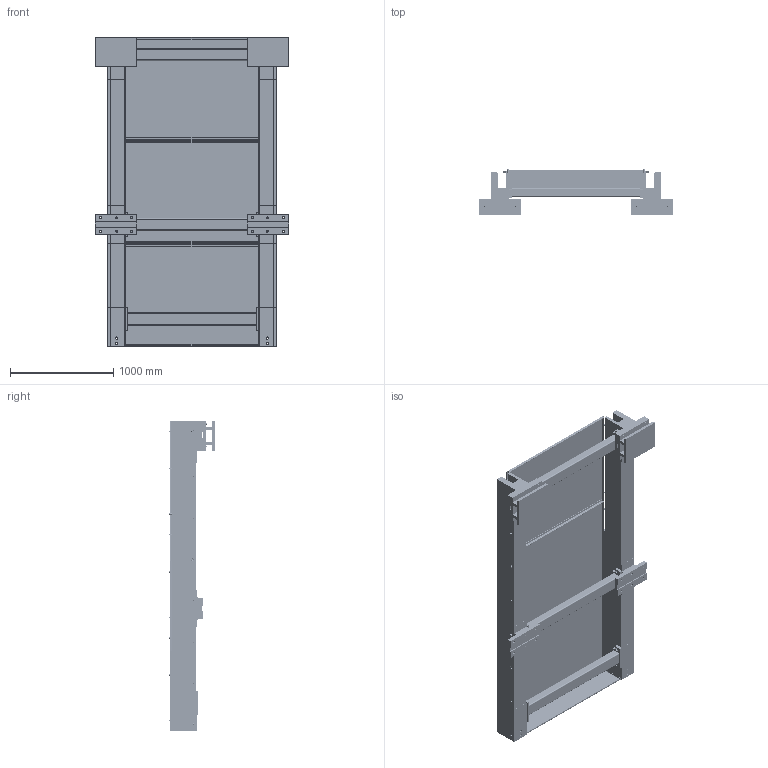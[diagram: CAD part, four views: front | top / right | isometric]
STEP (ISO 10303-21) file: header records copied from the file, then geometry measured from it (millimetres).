
FILE_DESCRIPTION (( 'STEP AP203' ), '1' );
FILE_NAME ('ÒÊ950Ô3Ò 090.000 Ðåëüñîâûé áëîê.STEP', '2017-02-01T04:53:06', ( '' ), ( '' ), 'SwSTEP 2.0', 'SolidWorks 2009', '' );
FILE_SCHEMA (( 'CONFIG_CONTROL_DESIGN' ));
Length unit declared in the file: millimetre
Products named in the file (44): ÒÊ950Ô3Ò 092.006 Îïîðà_ëåâûé; ÒÊ950Ô3Ì 081.008 Îïîðà_ëåâàÿ; ÒÊ950Ô3Ì 081.009 Ïëàíêà; ÒÊ950Ô3Ì 081.010 Ïëàíêà; ÒÊ950Ô3Ì 081.011 Êîìïåíñàòîð; 鎔艜 襞旂 11738-84_M10x30 DIN912; 鎔艜 襞旂 11738-84_M16x40 DIN912; 鎔艜 襞旂 11738-84_M20x80 DIN912; 鎔艜 襞旂 11738-84_M20x100 DIN912; ﾒﾊ950ﾔ3ﾌ 083.000 ﾘ淏濱1520; ÒÊ950Ô3Ì 083.001 Ôëàíåö; ÒÊ950Ô3Ì 083.002 Ïðîôèëü_1520; ÒÊ950Ô3Ì 084.000 Îïîðà; ÒÊ950Ô3Ì 084.001 Ïëàñòèíà; ÒÊ950Ô3Ì 084.002 Ñòîéêà; ÒÊ950Ô3Ì 085.000 Êðûøêà; ÒÊ950Ô3Ì 085.100 Ðàìêà; ÒÊ950Ô3Ì 085.101 Óãîëîê_Äëèííûé 8; ÒÊ950Ô3Ì 085.102 Óãîëîê_Äëèííûé 8; ﾒﾊ950ﾔ3ﾌ 085.001 ﾋ頌6; ÒÊ950Ô3Ì 080.001 Çàùèòà; ÒÊ950Ô3Ì 090.001 Âòóëêà; 鎔艜 襞旂 11738-84_M20x50 DIN912; 鎔艜 襞旂 11738-84_M20x55 DIN912; Âèíò ÃÎÑÒ 17473-80_Âèíò A.Ì4-6gx10.88.35Õ.029 ÃÎÑÒ 17473-80; Áîëò ÃÎÑÒ 7805-70_Ì8-6gx16.109.026 ÃÎÑÒ7805-70; Áîëò ÃÎÑÒ 7805-70_Ì8-6gx40.109.026 ÃÎÑÒ7805-70; ﾘ琺矜 ﾃﾎﾑﾒ 11371-78_ﾘ琺矜 8.01.88.019 ﾃﾎﾑﾒ11371-78; ÒÊ950Ô3Ò 090.000 Ðåëüñîâûé áëîê; ÒÊ950Ô3Ò 091.000 Ðåëüñ ïðèåìíûé; ÒÊ950Ô3Ì 082.001 Îïîðà_ëåâàÿ; ÒÊ950Ô3Ì 091.004-03 Ïëàíêà_ïðèåìíàÿ; ÒÊ950Ô3Ò 082.005 Ðåëüñ_ëåâûé; ÒÊ950Ô3Ò 091.006 Îïîðà_ëåâûé; ÒÊ950Ô3Ì 082.009 Ïëàíêà; ÒÊ950Ô3Ì 082.010 Ïëàíêà; ÒÊ950Ô3Ò 092.000 Ðåëüñ ïðèåìíûé; ÒÊ950Ô3Ì 081.001 Îïîðà_ëåâàÿ; ÒÊ950Ô3Ì 081.003 Êîìïåíñàòîð; ÒÊ950Ô3Ì 092.004-03 Ïëàíêà_ïðèåìíàÿ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
Assembly tree (160 placements, depth 4):
  ÒÊ950Ô3Ò 090.000 Ðåëüñîâûé áëîê
    ﾒﾊ950ﾔ3ﾌ 083.000 ﾘ淏濱1520  x3
      ÒÊ950Ô3Ì 083.001 Ôëàíåö
      ÒÊ950Ô3Ì 083.001 Ôëàíåö
      ÒÊ950Ô3Ì 083.002 Ïðîôèëü_1520
    鎔艜 襞旂 11738-84_M20x50 DIN912  x8
    Âèíò ÃÎÑÒ 17473-80_Âèíò A.Ì4-6gx10.88.35Õ.029 ÃÎÑÒ 17473-80  x4
    Áîëò ÃÎÑÒ 7805-70_Ì8-6gx40.109.026 ÃÎÑÒ7805-70  x8
    ﾘ琺矜 ﾃﾎﾑﾒ 11371-78_ﾘ琺矜 8.01.88.019 ﾃﾎﾑﾒ11371-78  x18
    ÒÊ950Ô3Ì 090.001 Âòóëêà  x8
    鎔艜 襞旂 11738-84_M20x55 DIN912  x12
    Áîëò ÃÎÑÒ 7805-70_Ì8-6gx16.109.026 ÃÎÑÒ7805-70  x10
    ÒÊ950Ô3Ò 091.000 Ðåëüñ ïðèåìíûé
      ÒÊ950Ô3Ì 081.003 Êîìïåíñàòîð
      鎔艜 襞旂 11738-84_M16x40 DIN912  x8
      鎔艜 襞旂 11738-84_M10x30 DIN912  x4
      鎔艜 襞旂 11738-84_M20x50 DIN912  x8
      ÒÊ950Ô3Ì 081.011 Êîìïåíñàòîð
      鎔艜 襞旂 11738-84_M20x100 DIN912  x3
      ÒÊ950Ô3Ì 082.001 Îïîðà_ëåâàÿ
      ÒÊ950Ô3Ì 082.010 Ïëàíêà
      ÒÊ950Ô3Ì 082.009 Ïëàíêà
      ÒÊ950Ô3Ì 081.008 Îïîðà_ëåâàÿ
      鎔艜 襞旂 11738-84_M20x80 DIN912  x2
      ÒÊ950Ô3Ò 091.006 Îïîðà_ëåâûé
      ÒÊ950Ô3Ò 082.005 Ðåëüñ_ëåâûé
      ÒÊ950Ô3Ì 091.004-03 Ïëàíêà_ïðèåìíàÿ
    ÒÊ950Ô3Ò 092.000 Ðåëüñ ïðèåìíûé
      ÒÊ950Ô3Ì 081.010 Ïëàíêà
      鎔艜 襞旂 11738-84_M20x50 DIN912  x8
      鎔艜 襞旂 11738-84_M16x40 DIN912  x8
      鎔艜 襞旂 11738-84_M20x100 DIN912  x3
      ÒÊ950Ô3Ì 081.009 Ïëàíêà
      ÒÊ950Ô3Ì 081.008 Îïîðà_ëåâàÿ
      鎔艜 襞旂 11738-84_M20x80 DIN912  x2
      ÒÊ950Ô3Ò 092.006 Îïîðà_ëåâûé
      鎔艜 襞旂 11738-84_M10x30 DIN912  x4
      ÒÊ950Ô3Ò 081.005 Ðåëüñ_ëåâûé
      ÒÊ950Ô3Ì 092.004-03 Ïëàíêà_ïðèåìíàÿ
      ÒÊ950Ô3Ì 081.003 Êîìïåíñàòîð
      ÒÊ950Ô3Ì 081.001 Îïîðà_ëåâàÿ
      ÒÊ950Ô3Ì 081.011 Êîìïåíñàòîð
    ÒÊ950Ô3Ì 084.000 Îïîðà  x2
      ÒÊ950Ô3Ì 084.002 Ñòîéêà
      ÒÊ950Ô3Ì 084.001 Ïëàñòèíà
      ÒÊ950Ô3Ì 084.001 Ïëàñòèíà
    ÒÊ950Ô3Ì 085.000 Êðûøêà  x3
      ﾒﾊ950ﾔ3ﾌ 085.001 ﾋ頌6
      ÒÊ950Ô3Ì 085.100 Ðàìêà
        ÒÊ950Ô3Ì 085.102 Óãîëîê_Äëèííûé 8  x2
        ÒÊ950Ô3Ì 085.101 Óãîëîê_Äëèííûé 8
        ÒÊ950Ô3Ì 085.101 Óãîëîê_Äëèííûé 8
    ÒÊ950Ô3Ì 080.001 Çàùèòà
Bounding box: 1870 x 441.1 x 3000 mm (x, y, z)
Volume: 229038902.2 mm3; surface area: 25421895.9 mm2
Topology: 169 solids, 169 shells, 3850 faces, 8730 edges, 5418 vertices
Faces by surface type: plane 1614, cylinder 1146, cone 610, torus 464, sphere 8, bspline 8
Entity records: 48155 total; most frequent: CARTESIAN_POINT 7746, DIRECTION 7367, ORIENTED_EDGE 6222, EDGE_CURVE 3111, AXIS2_PLACEMENT_3D 2843, VERTEX_POINT 1978, EDGE_LOOP 1697, LINE 1681
